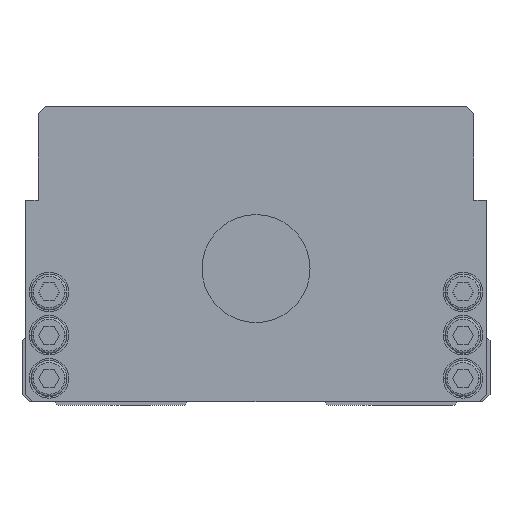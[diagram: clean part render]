
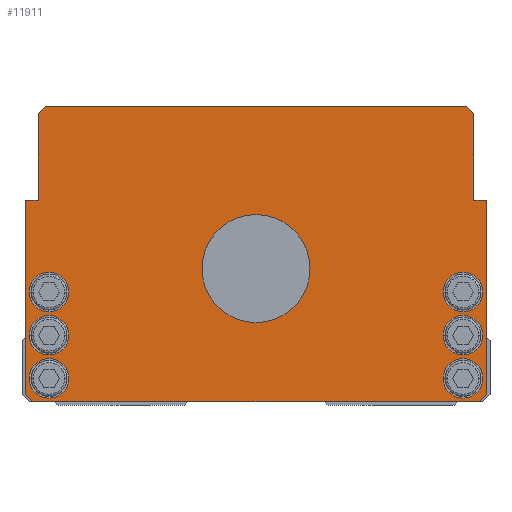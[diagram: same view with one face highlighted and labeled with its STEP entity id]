
A CAD part, front view. The second image highlights one B-rep face of the part: STEP entity #11911.
In plain terms, the highlighted planar face has unit normal (0, -1, 0).
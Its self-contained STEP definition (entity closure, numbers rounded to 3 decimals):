
#4095=VERTEX_POINT('',#12230);
#4453=EDGE_CURVE('',#11343,#8373,#12643,.T.);
#4579=EDGE_CURVE('',#11629,#4907,#12782,.T.);
#4907=VERTEX_POINT('',#13151);
#5127=VERTEX_POINT('',#13400);
#5205=EDGE_CURVE('',#5127,#6499,#13487,.T.);
#5221=VERTEX_POINT('',#13504);
#5289=EDGE_CURVE('',#10013,#11343,#13587,.T.);
#5471=VERTEX_POINT('',#13784);
#5541=VERTEX_POINT('',#13860);
#5651=EDGE_CURVE('',#5471,#5541,#14000,.T.);
#6029=EDGE_CURVE('',#11951,#4095,#14425,.T.);
#6181=VERTEX_POINT('',#14590);
#6299=EDGE_CURVE('',#7241,#6559,#14718,.T.);
#6325=EDGE_CURVE('',#11805,#9677,#14748,.T.);
#6499=VERTEX_POINT('',#14942);
#6513=VERTEX_POINT('',#14956);
#6535=EDGE_CURVE('',#8933,#6859,#14981,.T.);
#6559=VERTEX_POINT('',#15011);
#6713=EDGE_CURVE('',#9345,#6513,#15182,.T.);
#6733=EDGE_CURVE('',#9343,#7653,#15206,.T.);
#6859=VERTEX_POINT('',#15352);
#7241=VERTEX_POINT('',#15767);
#7653=VERTEX_POINT('',#16234);
#7829=EDGE_CURVE('',#6859,#11629,#16434,.T.);
#7903=VERTEX_POINT('',#16514);
#7927=EDGE_CURVE('',#7903,#8933,#16541,.T.);
#7991=EDGE_CURVE('',#6559,#7241,#16609,.T.);
#8017=EDGE_CURVE('',#4095,#11951,#16636,.T.);
#8373=VERTEX_POINT('',#17045);
#8629=EDGE_CURVE('',#5541,#5471,#17318,.T.);
#8769=EDGE_CURVE('',#6181,#7903,#17472,.T.);
#8821=VERTEX_POINT('',#17528);
#8933=VERTEX_POINT('',#17643);
#9343=VERTEX_POINT('',#18101);
#9345=VERTEX_POINT('',#18103);
#9475=EDGE_CURVE('',#8373,#6181,#18248,.T.);
#9677=VERTEX_POINT('',#18473);
#10013=VERTEX_POINT('',#18840);
#10447=EDGE_CURVE('',#4907,#9345,#19321,.T.);
#10487=EDGE_CURVE('',#8821,#10013,#19364,.T.);
#10563=EDGE_CURVE('',#11027,#5221,#19447,.T.);
#10949=EDGE_CURVE('',#6499,#5127,#19883,.T.);
#11027=VERTEX_POINT('',#19970);
#11343=VERTEX_POINT('',#20321);
#11499=EDGE_CURVE('',#7653,#9343,#20492,.T.);
#11527=EDGE_CURVE('',#6513,#8821,#20523,.T.);
#11629=VERTEX_POINT('',#20636);
#11641=EDGE_CURVE('',#5221,#11027,#20650,.T.);
#11805=VERTEX_POINT('',#20831);
#11911=ADVANCED_FACE('',(#20946,#20947,#20948,#20949,#20950,#20951,#20952,#20953),#20954,.T.);
#11951=VERTEX_POINT('',#20999);
#12195=EDGE_CURVE('',#9677,#11805,#21260,.T.);
#12230=CARTESIAN_POINT('',(52.0,0.0,31.5));
#12643=LINE('',#21858,#21859);
#12782=LINE('',#22055,#22056);
#13151=CARTESIAN_POINT('',(64.0,0.0,3.0));
#13400=CARTESIAN_POINT('',(-52.0,0.0,31.5));
#13487=CIRCLE('',#22996,5.5);
#13504=CARTESIAN_POINT('',(-52.0,0.0,19.5));
#13587=LINE('',#23122,#23123);
#13784=CARTESIAN_POINT('',(-52.0,0.0,7.5));
#13860=CARTESIAN_POINT('',(-63.0,0.0,7.5));
#14000=CIRCLE('',#23698,5.5);
#14425=CIRCLE('',#24265,5.5);
#14590=CARTESIAN_POINT('',(-58.5,0.0,83.0));
#14718=CIRCLE('',#24710,5.5);
#14748=CIRCLE('',#24747,5.5);
#14942=CARTESIAN_POINT('',(-63.0,0.0,31.5));
#14956=CARTESIAN_POINT('',(-62.0,0.0,1.0));
#14981=LINE('',#25069,#25070);
#15011=CARTESIAN_POINT('',(52.0,0.0,7.5));
#15182=LINE('',#25340,#25341);
#15206=CIRCLE('',#25372,15.0);
#15352=CARTESIAN_POINT('',(60.5,0.0,57.0));
#15767=CARTESIAN_POINT('',(63.0,0.0,7.5));
#16234=CARTESIAN_POINT('',(-15.0,0.0,38.0));
#16434=LINE('',#27040,#27041);
#16514=CARTESIAN_POINT('',(58.5,0.0,83.0));
#16541=LINE('',#27184,#27185);
#16609=CIRCLE('',#27289,5.5);
#16636=CIRCLE('',#27331,5.5);
#17045=CARTESIAN_POINT('',(-60.5,0.0,81.0));
#17318=CIRCLE('',#28272,5.5);
#17472=LINE('',#28476,#28477);
#17528=CARTESIAN_POINT('',(-64.0,0.0,3.0));
#17643=CARTESIAN_POINT('',(60.5,0.0,81.0));
#18101=CARTESIAN_POINT('',(15.0,0.0,38.0));
#18103=CARTESIAN_POINT('',(62.0,0.0,1.0));
#18248=LINE('',#29538,#29539);
#18473=CARTESIAN_POINT('',(63.0,0.0,19.5));
#18840=CARTESIAN_POINT('',(-64.0,0.0,57.0));
#19321=LINE('',#31016,#31017);
#19364=LINE('',#31078,#31079);
#19447=CIRCLE('',#31189,5.5);
#19883=CIRCLE('',#31752,5.5);
#19970=CARTESIAN_POINT('',(-63.0,0.0,19.5));
#20321=CARTESIAN_POINT('',(-60.5,0.0,57.0));
#20492=CIRCLE('',#32580,15.0);
#20523=LINE('',#32627,#32628);
#20636=CARTESIAN_POINT('',(64.0,0.0,57.0));
#20650=CIRCLE('',#32818,5.5);
#20831=CARTESIAN_POINT('',(52.0,0.0,19.5));
#20946=FACE_BOUND('',#33226,.T.);
#20947=FACE_BOUND('',#33227,.T.);
#20948=FACE_BOUND('',#33228,.T.);
#20949=FACE_BOUND('',#33229,.T.);
#20950=FACE_BOUND('',#33230,.T.);
#20951=FACE_BOUND('',#33231,.T.);
#20952=FACE_BOUND('',#33232,.T.);
#20953=FACE_OUTER_BOUND('',#33233,.T.);
#20954=PLANE('',#33234);
#20999=CARTESIAN_POINT('',(63.0,0.0,31.5));
#21260=CIRCLE('',#33672,5.5);
#21858=CARTESIAN_POINT('',(-60.5,0.0,81.0));
#21859=VECTOR('',#34253,1.0);
#22055=CARTESIAN_POINT('',(64.0,0.0,3.0));
#22056=VECTOR('',#34412,1.0);
#22996=AXIS2_PLACEMENT_3D('',#35292,#35293,#35294);
#23122=CARTESIAN_POINT('',(-60.5,0.0,57.0));
#23123=VECTOR('',#35465,1.0);
#23698=AXIS2_PLACEMENT_3D('',#35952,#35953,#35954);
#24265=AXIS2_PLACEMENT_3D('',#36460,#36461,#36462);
#24710=AXIS2_PLACEMENT_3D('',#36786,#36787,#36788);
#24747=AXIS2_PLACEMENT_3D('',#36825,#36826,#36827);
#25069=CARTESIAN_POINT('',(60.5,0.0,57.0));
#25070=VECTOR('',#37108,1.0);
#25340=CARTESIAN_POINT('',(-62.0,0.0,1.0));
#25341=VECTOR('',#37362,1.0);
#25372=AXIS2_PLACEMENT_3D('',#37400,#37401,#37402);
#27040=CARTESIAN_POINT('',(64.0,0.0,57.0));
#27041=VECTOR('',#38834,1.0);
#27184=CARTESIAN_POINT('',(60.5,0.0,81.0));
#27185=VECTOR('',#38946,1.);
#27289=AXIS2_PLACEMENT_3D('',#39018,#39019,#39020);
#27331=AXIS2_PLACEMENT_3D('',#39036,#39037,#39038);
#28272=AXIS2_PLACEMENT_3D('',#39759,#39760,#39761);
#28476=CARTESIAN_POINT('',(58.5,0.0,83.0));
#28477=VECTOR('',#39934,1.0);
#29538=CARTESIAN_POINT('',(-58.5,0.0,83.0));
#29539=VECTOR('',#40790,1.);
#31016=CARTESIAN_POINT('',(62.0,0.0,1.0));
#31017=VECTOR('',#41968,1.);
#31078=CARTESIAN_POINT('',(-64.0,0.0,57.0));
#31079=VECTOR('',#42024,1.0);
#31189=AXIS2_PLACEMENT_3D('',#42108,#42109,#42110);
#31752=AXIS2_PLACEMENT_3D('',#42657,#42658,#42659);
#32580=AXIS2_PLACEMENT_3D('',#43335,#43336,#43337);
#32627=CARTESIAN_POINT('',(-64.0,0.0,3.0));
#32628=VECTOR('',#43382,1.);
#32818=AXIS2_PLACEMENT_3D('',#43546,#43547,#43548);
#33226=EDGE_LOOP('',(#43874,#43875));
#33227=EDGE_LOOP('',(#43876,#43877));
#33228=EDGE_LOOP('',(#43878,#43879));
#33229=EDGE_LOOP('',(#43880,#43881));
#33230=EDGE_LOOP('',(#43882,#43883));
#33231=EDGE_LOOP('',(#43884,#43885));
#33232=EDGE_LOOP('',(#43886,#43887));
#33233=EDGE_LOOP('',(#43888,#43889,#43890,#43891,#43892,#43893,#43894,#43895,#43896,#43897,#43898,#43899));
#33234=AXIS2_PLACEMENT_3D('',#43900,#43901,#43902);
#33672=AXIS2_PLACEMENT_3D('',#44180,#44181,#44182);
#34253=DIRECTION('',(0.0,0.0,1.0));
#34412=DIRECTION('',(-0.0,0.0,-1.0));
#35292=CARTESIAN_POINT('',(-57.5,0.0,31.5));
#35293=DIRECTION('',(-0.0,1.0,0.0));
#35294=DIRECTION('',(1.0,0.0,0.0));
#35465=DIRECTION('',(1.0,0.0,0.0));
#35952=CARTESIAN_POINT('',(-57.5,0.0,7.5));
#35953=DIRECTION('',(-0.0,1.0,0.0));
#35954=DIRECTION('',(1.0,0.0,0.0));
#36460=CARTESIAN_POINT('',(57.5,0.0,31.5));
#36461=DIRECTION('',(-0.0,1.0,0.0));
#36462=DIRECTION('',(1.0,0.0,0.0));
#36786=CARTESIAN_POINT('',(57.5,0.0,7.5));
#36787=DIRECTION('',(-0.0,1.0,0.0));
#36788=DIRECTION('',(1.0,0.0,0.0));
#36825=CARTESIAN_POINT('',(57.5,0.0,19.5));
#36826=DIRECTION('',(-0.0,1.0,0.0));
#36827=DIRECTION('',(1.0,0.0,0.0));
#37108=DIRECTION('',(-0.0,0.0,-1.0));
#37362=DIRECTION('',(-1.0,0.0,-0.0));
#37400=CARTESIAN_POINT('',(0.0,0.0,38.0));
#37401=DIRECTION('',(-0.0,1.0,0.0));
#37402=DIRECTION('',(1.0,0.0,0.0));
#38834=DIRECTION('',(1.0,0.0,0.0));
#38946=DIRECTION('',(0.707,0.0,-0.707));
#39018=CARTESIAN_POINT('',(57.5,0.0,7.5));
#39019=DIRECTION('',(-0.0,1.0,0.0));
#39020=DIRECTION('',(1.0,0.0,0.0));
#39036=CARTESIAN_POINT('',(57.5,0.0,31.5));
#39037=DIRECTION('',(-0.0,1.0,0.0));
#39038=DIRECTION('',(1.0,0.0,0.0));
#39759=CARTESIAN_POINT('',(-57.5,0.0,7.5));
#39760=DIRECTION('',(-0.0,1.0,0.0));
#39761=DIRECTION('',(1.0,0.0,0.0));
#39934=DIRECTION('',(1.0,0.0,0.0));
#40790=DIRECTION('',(0.707,0.0,0.707));
#41968=DIRECTION('',(-0.707,0.0,-0.707));
#42024=DIRECTION('',(0.0,0.0,1.0));
#42108=CARTESIAN_POINT('',(-57.5,0.0,19.5));
#42109=DIRECTION('',(-0.0,1.0,0.0));
#42110=DIRECTION('',(1.0,0.0,0.0));
#42657=CARTESIAN_POINT('',(-57.5,0.0,31.5));
#42658=DIRECTION('',(-0.0,1.0,0.0));
#42659=DIRECTION('',(1.0,0.0,0.0));
#43335=CARTESIAN_POINT('',(0.0,0.0,38.0));
#43336=DIRECTION('',(-0.0,1.0,0.0));
#43337=DIRECTION('',(1.0,0.0,0.0));
#43382=DIRECTION('',(-0.707,0.0,0.707));
#43546=CARTESIAN_POINT('',(-57.5,0.0,19.5));
#43547=DIRECTION('',(-0.0,1.0,0.0));
#43548=DIRECTION('',(1.0,0.0,0.0));
#43874=ORIENTED_EDGE('',*,*,#6733,.T.);
#43875=ORIENTED_EDGE('',*,*,#11499,.T.);
#43876=ORIENTED_EDGE('',*,*,#6029,.T.);
#43877=ORIENTED_EDGE('',*,*,#8017,.T.);
#43878=ORIENTED_EDGE('',*,*,#12195,.T.);
#43879=ORIENTED_EDGE('',*,*,#6325,.T.);
#43880=ORIENTED_EDGE('',*,*,#6299,.T.);
#43881=ORIENTED_EDGE('',*,*,#7991,.T.);
#43882=ORIENTED_EDGE('',*,*,#5205,.T.);
#43883=ORIENTED_EDGE('',*,*,#10949,.T.);
#43884=ORIENTED_EDGE('',*,*,#11641,.T.);
#43885=ORIENTED_EDGE('',*,*,#10563,.T.);
#43886=ORIENTED_EDGE('',*,*,#5651,.T.);
#43887=ORIENTED_EDGE('',*,*,#8629,.T.);
#43888=ORIENTED_EDGE('',*,*,#11527,.F.);
#43889=ORIENTED_EDGE('',*,*,#6713,.F.);
#43890=ORIENTED_EDGE('',*,*,#10447,.F.);
#43891=ORIENTED_EDGE('',*,*,#4579,.F.);
#43892=ORIENTED_EDGE('',*,*,#7829,.F.);
#43893=ORIENTED_EDGE('',*,*,#6535,.F.);
#43894=ORIENTED_EDGE('',*,*,#7927,.F.);
#43895=ORIENTED_EDGE('',*,*,#8769,.F.);
#43896=ORIENTED_EDGE('',*,*,#9475,.F.);
#43897=ORIENTED_EDGE('',*,*,#4453,.F.);
#43898=ORIENTED_EDGE('',*,*,#5289,.F.);
#43899=ORIENTED_EDGE('',*,*,#10487,.F.);
#43900=CARTESIAN_POINT('',(0.,0.0,41.562));
#43901=DIRECTION('',(0.0,-1.0,0.0));
#43902=DIRECTION('',(1.0,0.0,0.0));
#44180=CARTESIAN_POINT('',(57.5,0.0,19.5));
#44181=DIRECTION('',(-0.0,1.0,0.0));
#44182=DIRECTION('',(1.0,0.0,0.0));
